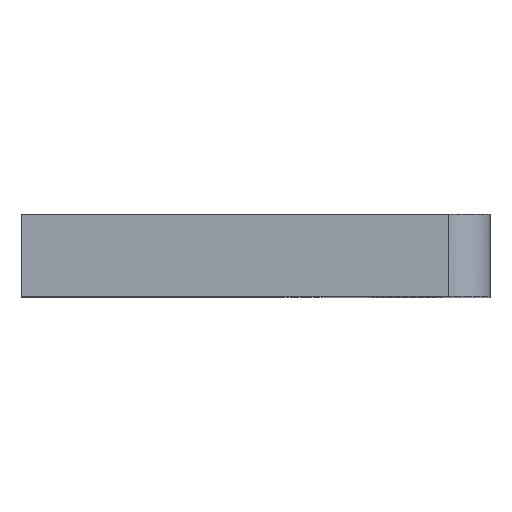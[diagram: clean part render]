
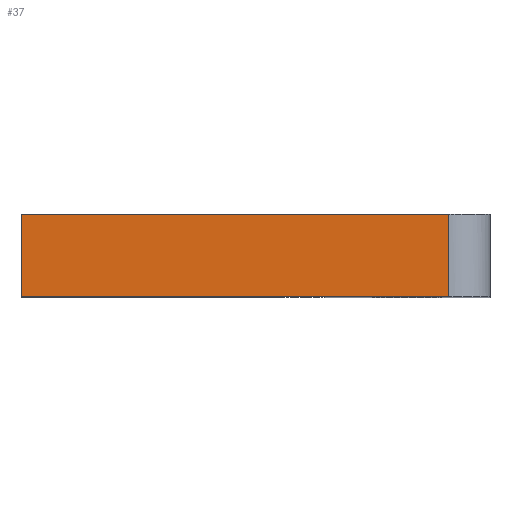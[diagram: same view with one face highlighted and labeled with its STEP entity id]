
A CAD part, top view. The second image highlights one B-rep face of the part: STEP entity #37.
In plain terms, the highlighted free-form (B-spline) face has degree [2, 1] with [3, 2] control points.
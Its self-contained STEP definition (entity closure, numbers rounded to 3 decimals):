
#37=ADVANCED_FACE('',(#56),#699,.T.);
#56=FACE_OUTER_BOUND('',#75,.T.);
#75=EDGE_LOOP('',(#117,#118,#119,#120));
#117=ORIENTED_EDGE('',*,*,#538,.T.);
#118=ORIENTED_EDGE('',*,*,#539,.T.);
#119=ORIENTED_EDGE('',*,*,#540,.T.);
#120=ORIENTED_EDGE('',*,*,#536,.F.);
#216=PCURVE('',#698,#318);
#219=PCURVE('',#699,#321);
#220=PCURVE('',#699,#322);
#221=PCURVE('',#699,#323);
#222=PCURVE('',#699,#324);
#226=PCURVE('',#700,#328);
#254=PCURVE('',#692,#356);
#273=PCURVE('',#693,#375);
#318=DEFINITIONAL_REPRESENTATION('',(#420),#1414);
#321=DEFINITIONAL_REPRESENTATION('',(#423),#1414);
#322=DEFINITIONAL_REPRESENTATION('',(#424),#1414);
#323=DEFINITIONAL_REPRESENTATION('',(#425),#1414);
#324=DEFINITIONAL_REPRESENTATION('',(#426),#1414);
#328=DEFINITIONAL_REPRESENTATION('',(#430),#1414);
#356=DEFINITIONAL_REPRESENTATION('',(#619),#1414);
#375=DEFINITIONAL_REPRESENTATION('',(#642),#1414);
#420=B_SPLINE_CURVE_WITH_KNOTS('',1,(#1048,#1049),.UNSPECIFIED.,.F.,.F.,
(2,2),(0.,6.),.UNSPECIFIED.);
#423=B_SPLINE_CURVE_WITH_KNOTS('',1,(#1060,#1061),.UNSPECIFIED.,.F.,.F.,
(2,2),(89.958,116.399),.UNSPECIFIED.);
#424=B_SPLINE_CURVE_WITH_KNOTS('',1,(#1064,#1065),.UNSPECIFIED.,.F.,.F.,
(2,2),(0.,6.),.UNSPECIFIED.);
#425=B_SPLINE_CURVE_WITH_KNOTS('',1,(#1069,#1070),.UNSPECIFIED.,.F.,.F.,
(2,2),(-116.399,-89.958),.UNSPECIFIED.);
#426=B_SPLINE_CURVE_WITH_KNOTS('',1,(#1071,#1072),.UNSPECIFIED.,.F.,.F.,
(2,2),(0.,6.),.UNSPECIFIED.);
#430=B_SPLINE_CURVE_WITH_KNOTS('',1,(#1087,#1088),.UNSPECIFIED.,.F.,.F.,
(2,2),(0.,6.),.UNSPECIFIED.);
#485=SURFACE_CURVE('',#587,(#216,#222),.PCURVE_S1.);
#487=SURFACE_CURVE('',#589,(#219,#254),.PCURVE_S1.);
#488=SURFACE_CURVE('',#590,(#220,#226),.PCURVE_S1.);
#489=SURFACE_CURVE('',#591,(#221,#273),.PCURVE_S1.);
#536=EDGE_CURVE('',#668,#669,#485,.T.);
#538=EDGE_CURVE('',#668,#670,#487,.T.);
#539=EDGE_CURVE('',#670,#671,#488,.T.);
#540=EDGE_CURVE('',#671,#669,#489,.T.);
#587=(
BOUNDED_CURVE()
B_SPLINE_CURVE(1,(#1046,#1047),.UNSPECIFIED.,.F.,.F.)
B_SPLINE_CURVE_WITH_KNOTS((2,2),(0.,6.),.UNSPECIFIED.)
CURVE()
GEOMETRIC_REPRESENTATION_ITEM()
RATIONAL_B_SPLINE_CURVE((1.,1.))
REPRESENTATION_ITEM('')
);
#589=(
BOUNDED_CURVE()
B_SPLINE_CURVE(2,(#1057,#1058,#1059),.UNSPECIFIED.,.F.,.F.)
B_SPLINE_CURVE_WITH_KNOTS((3,3),(89.958,116.399),
 .UNSPECIFIED.)
CURVE()
GEOMETRIC_REPRESENTATION_ITEM()
RATIONAL_B_SPLINE_CURVE((1.,1.,1.))
REPRESENTATION_ITEM('')
);
#590=(
BOUNDED_CURVE()
B_SPLINE_CURVE(1,(#1062,#1063),.UNSPECIFIED.,.F.,.F.)
B_SPLINE_CURVE_WITH_KNOTS((2,2),(0.,6.),.UNSPECIFIED.)
CURVE()
GEOMETRIC_REPRESENTATION_ITEM()
RATIONAL_B_SPLINE_CURVE((1.,1.))
REPRESENTATION_ITEM('')
);
#591=(
BOUNDED_CURVE()
B_SPLINE_CURVE(2,(#1066,#1067,#1068),.UNSPECIFIED.,.F.,.F.)
B_SPLINE_CURVE_WITH_KNOTS((3,3),(-116.399,-89.958),
 .UNSPECIFIED.)
CURVE()
GEOMETRIC_REPRESENTATION_ITEM()
RATIONAL_B_SPLINE_CURVE((1.,1.,1.))
REPRESENTATION_ITEM('')
);
#619=(
BOUNDED_CURVE()
B_SPLINE_CURVE(2,(#1216,#1217,#1218),.UNSPECIFIED.,.F.,.F.)
B_SPLINE_CURVE_WITH_KNOTS((3,3),(89.958,116.399),
 .UNSPECIFIED.)
CURVE()
GEOMETRIC_REPRESENTATION_ITEM()
RATIONAL_B_SPLINE_CURVE((1.,1.,1.))
REPRESENTATION_ITEM('')
);
#642=(
BOUNDED_CURVE()
B_SPLINE_CURVE(2,(#1309,#1310,#1311),.UNSPECIFIED.,.F.,.F.)
B_SPLINE_CURVE_WITH_KNOTS((3,3),(-116.399,-89.958),
 .UNSPECIFIED.)
CURVE()
GEOMETRIC_REPRESENTATION_ITEM()
RATIONAL_B_SPLINE_CURVE((1.,1.,1.))
REPRESENTATION_ITEM('')
);
#668=VERTEX_POINT('',#951);
#669=VERTEX_POINT('',#952);
#670=VERTEX_POINT('',#953);
#671=VERTEX_POINT('',#954);
#692=PLANE('',#731);
#693=PLANE('',#732);
#698=(
BOUNDED_SURFACE()
B_SPLINE_SURFACE(2,1,((#765,#766),(#767,#768),(#769,#770)),.UNSPECIFIED.,
 .F.,.F.,.F.)
B_SPLINE_SURFACE_WITH_KNOTS((3,3),(2,2),(67.958,89.958),
(0.,6.),.UNSPECIFIED.)
GEOMETRIC_REPRESENTATION_ITEM()
RATIONAL_B_SPLINE_SURFACE(((1.,1.),(1.,1.),(1.,1.)))
REPRESENTATION_ITEM('')
SURFACE()
);
#699=(
BOUNDED_SURFACE()
B_SPLINE_SURFACE(2,1,((#771,#772),(#773,#774),(#775,#776)),.UNSPECIFIED.,
 .F.,.F.,.F.)
B_SPLINE_SURFACE_WITH_KNOTS((3,3),(2,2),(89.958,116.399),
(0.,6.),.UNSPECIFIED.)
GEOMETRIC_REPRESENTATION_ITEM()
RATIONAL_B_SPLINE_SURFACE(((1.,1.),(1.,1.),(1.,1.)))
REPRESENTATION_ITEM('')
SURFACE()
);
#700=(
BOUNDED_SURFACE()
B_SPLINE_SURFACE(2,1,((#777,#778),(#779,#780),(#781,#782)),.UNSPECIFIED.,
 .F.,.F.,.F.)
B_SPLINE_SURFACE_WITH_KNOTS((3,3),(2,2),(116.399,121.111),
(0.,6.),.UNSPECIFIED.)
GEOMETRIC_REPRESENTATION_ITEM()
RATIONAL_B_SPLINE_SURFACE(((1.,1.),(0.707,0.707),
(1.,1.)))
REPRESENTATION_ITEM('')
SURFACE()
);
#731=AXIS2_PLACEMENT_3D('',#867,#736,$);
#732=AXIS2_PLACEMENT_3D('',#868,#737,$);
#736=DIRECTION('',(0.,-1.,0.));
#737=DIRECTION('',(0.,1.,0.));
#765=CARTESIAN_POINT('',(642.,29.,-1.));
#766=CARTESIAN_POINT('',(642.,35.,-1.));
#767=CARTESIAN_POINT('',(642.,29.,10.));
#768=CARTESIAN_POINT('',(642.,35.,10.));
#769=CARTESIAN_POINT('',(642.,29.,21.));
#770=CARTESIAN_POINT('',(642.,35.,21.));
#771=CARTESIAN_POINT('',(642.,29.,21.));
#772=CARTESIAN_POINT('',(642.,35.,21.));
#773=CARTESIAN_POINT('',(657.5,29.,21.));
#774=CARTESIAN_POINT('',(657.5,35.,21.));
#775=CARTESIAN_POINT('',(673.,29.,21.));
#776=CARTESIAN_POINT('',(673.,35.,21.));
#777=CARTESIAN_POINT('',(673.,29.,21.));
#778=CARTESIAN_POINT('',(673.,35.,21.));
#779=CARTESIAN_POINT('',(676.,29.,21.));
#780=CARTESIAN_POINT('',(676.,35.,21.));
#781=CARTESIAN_POINT('',(676.,29.,18.));
#782=CARTESIAN_POINT('',(676.,35.,18.));
#867=CARTESIAN_POINT('',(637.75,29.,27.625));
#868=CARTESIAN_POINT('',(637.75,35.,27.625));
#951=CARTESIAN_POINT('',(642.,29.,21.));
#952=CARTESIAN_POINT('',(642.,35.,21.));
#953=CARTESIAN_POINT('',(673.,29.,21.));
#954=CARTESIAN_POINT('',(673.,35.,21.));
#1046=CARTESIAN_POINT('',(642.,29.,21.));
#1047=CARTESIAN_POINT('',(642.,35.,21.));
#1048=CARTESIAN_POINT('',(89.958,0.));
#1049=CARTESIAN_POINT('',(89.958,6.));
#1057=CARTESIAN_POINT('',(642.,29.,21.));
#1058=CARTESIAN_POINT('',(657.5,29.,21.));
#1059=CARTESIAN_POINT('',(673.,29.,21.));
#1060=CARTESIAN_POINT('',(89.958,0.));
#1061=CARTESIAN_POINT('',(116.399,0.));
#1062=CARTESIAN_POINT('',(673.,29.,21.));
#1063=CARTESIAN_POINT('',(673.,35.,21.));
#1064=CARTESIAN_POINT('',(116.399,0.));
#1065=CARTESIAN_POINT('',(116.399,6.));
#1066=CARTESIAN_POINT('',(673.,35.,21.));
#1067=CARTESIAN_POINT('',(657.5,35.,21.));
#1068=CARTESIAN_POINT('',(642.,35.,21.));
#1069=CARTESIAN_POINT('',(116.399,6.));
#1070=CARTESIAN_POINT('',(89.958,6.));
#1071=CARTESIAN_POINT('',(89.958,0.));
#1072=CARTESIAN_POINT('',(89.958,6.));
#1087=CARTESIAN_POINT('',(116.399,0.));
#1088=CARTESIAN_POINT('',(116.399,6.));
#1216=CARTESIAN_POINT('',(-53.,-31.));
#1217=CARTESIAN_POINT('',(-53.,-15.5));
#1218=CARTESIAN_POINT('',(-53.,0.));
#1309=CARTESIAN_POINT('',(0.,-53.));
#1310=CARTESIAN_POINT('',(-15.5,-53.));
#1311=CARTESIAN_POINT('',(-31.,-53.));
#1414=(
GEOMETRIC_REPRESENTATION_CONTEXT(2)
PARAMETRIC_REPRESENTATION_CONTEXT()
REPRESENTATION_CONTEXT('pspace','')
);
